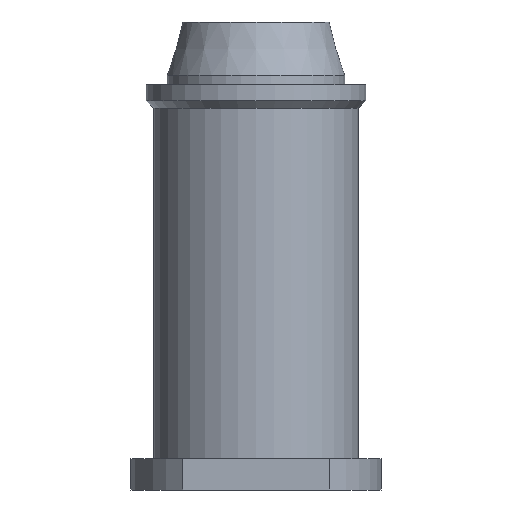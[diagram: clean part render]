
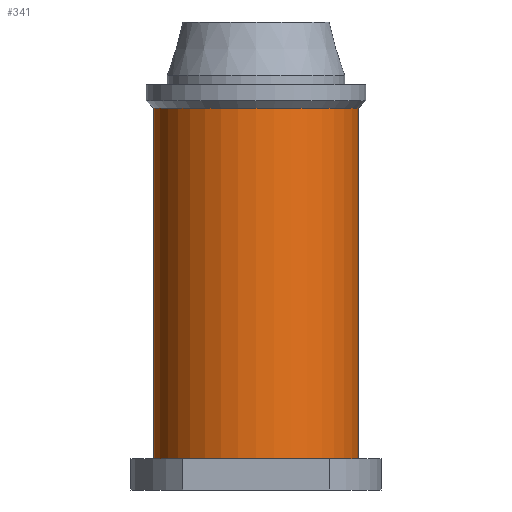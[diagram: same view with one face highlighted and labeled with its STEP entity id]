
A CAD part, front view. The second image highlights one B-rep face of the part: STEP entity #341.
In plain terms, the highlighted cylindrical face has radius 6.5 mm (diameter 13 mm), a full revolution.
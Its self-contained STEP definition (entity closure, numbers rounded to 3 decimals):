
#24=CYLINDRICAL_SURFACE('',#396,6.5);
#42=LINE('',#553,#67);
#53=LINE('',#602,#78);
#67=VECTOR('',#442,10.);
#78=VECTOR('',#505,6.5);
#98=FACE_OUTER_BOUND('',#122,.T.);
#122=EDGE_LOOP('',(#304,#305,#306,#307,#308,#309,#310,#311));
#128=CIRCLE('',#366,6.5);
#130=CIRCLE('',#369,6.5);
#134=CIRCLE('',#378,6.5);
#135=CIRCLE('',#379,6.5);
#143=CIRCLE('',#395,6.5);
#153=VERTEX_POINT('',#533);
#155=VERTEX_POINT('',#536);
#158=VERTEX_POINT('',#543);
#161=VERTEX_POINT('',#552);
#165=VERTEX_POINT('',#568);
#173=VERTEX_POINT('',#598);
#187=EDGE_CURVE('',#153,#155,#128,.T.);
#191=EDGE_CURVE('',#158,#153,#130,.T.);
#195=EDGE_CURVE('',#155,#161,#42,.T.);
#203=EDGE_CURVE('',#161,#165,#134,.T.);
#204=EDGE_CURVE('',#165,#158,#135,.T.);
#218=EDGE_CURVE('',#173,#173,#143,.T.);
#219=EDGE_CURVE('',#173,#165,#53,.T.);
#304=ORIENTED_EDGE('',*,*,#218,.F.);
#305=ORIENTED_EDGE('',*,*,#219,.T.);
#306=ORIENTED_EDGE('',*,*,#203,.F.);
#307=ORIENTED_EDGE('',*,*,#195,.F.);
#308=ORIENTED_EDGE('',*,*,#187,.F.);
#309=ORIENTED_EDGE('',*,*,#191,.F.);
#310=ORIENTED_EDGE('',*,*,#204,.F.);
#311=ORIENTED_EDGE('',*,*,#219,.F.);
#341=ADVANCED_FACE('',(#98),#24,.T.);
#366=AXIS2_PLACEMENT_3D('',#537,#427,#428);
#369=AXIS2_PLACEMENT_3D('',#545,#435,#436);
#378=AXIS2_PLACEMENT_3D('',#569,#461,#462);
#379=AXIS2_PLACEMENT_3D('',#570,#463,#464);
#395=AXIS2_PLACEMENT_3D('',#600,#501,#502);
#396=AXIS2_PLACEMENT_3D('',#601,#503,#504);
#427=DIRECTION('center_axis',(0.,0.,-1.));
#428=DIRECTION('ref_axis',(-1.,0.,0.));
#435=DIRECTION('center_axis',(0.,0.,-1.));
#436=DIRECTION('ref_axis',(-1.,0.,0.));
#442=DIRECTION('',(1.,0.,0.));
#461=DIRECTION('center_axis',(0.,0.,-1.));
#462=DIRECTION('ref_axis',(-1.,0.,0.));
#463=DIRECTION('center_axis',(0.,0.,-1.));
#464=DIRECTION('ref_axis',(-1.,0.,0.));
#501=DIRECTION('center_axis',(0.,0.,1.));
#502=DIRECTION('ref_axis',(-1.,0.,0.));
#503=DIRECTION('center_axis',(0.,0.,1.));
#504=DIRECTION('ref_axis',(-1.,0.,0.));
#505=DIRECTION('',(0.,0.,-1.));
#533=CARTESIAN_POINT('',(-0.001,-6.5,-90.));
#536=CARTESIAN_POINT('',(-0.001,6.5,-90.));
#537=CARTESIAN_POINT('Origin',(0.,0.,
-90.));
#543=CARTESIAN_POINT('',(0.001,-6.5,-90.));
#545=CARTESIAN_POINT('Origin',(0.,0.,
-90.));
#552=CARTESIAN_POINT('',(0.001,6.5,-90.));
#553=CARTESIAN_POINT('',(-0.001,6.5,-90.));
#568=CARTESIAN_POINT('',(6.5,0.,-90.));
#569=CARTESIAN_POINT('Origin',(0.,0.,
-90.));
#570=CARTESIAN_POINT('Origin',(0.,0.,
-90.));
#598=CARTESIAN_POINT('',(6.5,0.,-67.7));
#600=CARTESIAN_POINT('Origin',(0.,0.,
-67.7));
#601=CARTESIAN_POINT('Origin',(0.,0.,
-66.8));
#602=CARTESIAN_POINT('',(6.5,0.,-66.8));
